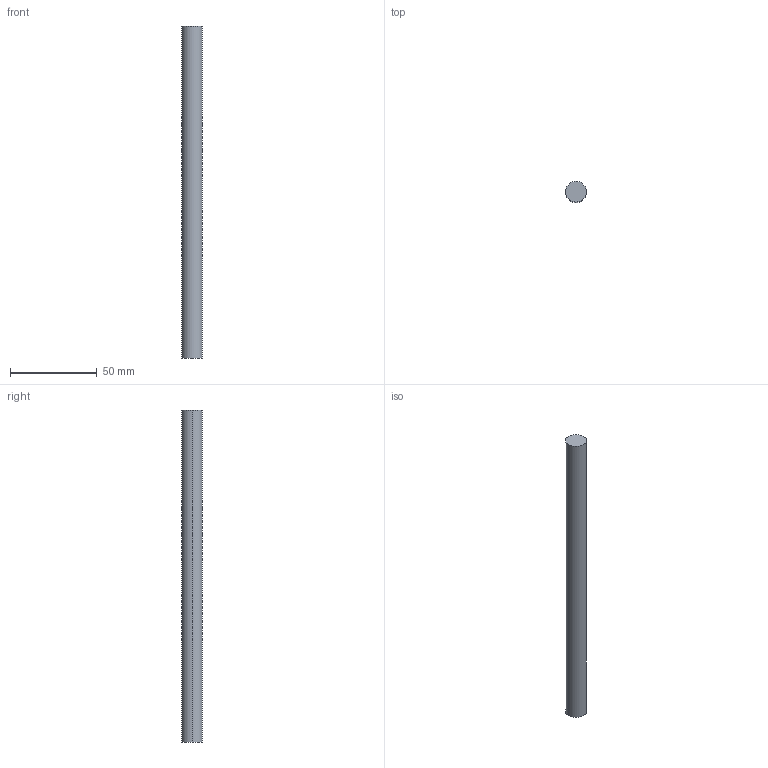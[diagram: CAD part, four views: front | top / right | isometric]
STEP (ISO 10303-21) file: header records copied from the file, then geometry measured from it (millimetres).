
FILE_DESCRIPTION (( 'STEP AP214' ), '1' );
FILE_NAME ('Magic Reling quer - S18_S19 - 300.step', '2010-09-07T14:56:10', ( 'grass' ), ( '' ), 'SwSTEP 2.0', 'SolidWorks 2010', '' );
FILE_SCHEMA (( 'AUTOMOTIVE_DESIGN' ));
Length unit declared in the file: millimetre
Products named in the file (1): Magic Reling quer - S18_S19 - 300
Bounding box: 12 x 12 x 191 mm (x, y, z)
Volume: 21601.6 mm3; surface area: 7426.7 mm2
Topology: 1 solids, 1 shells, 4 faces, 6 edges, 4 vertices
Faces by surface type: cylinder 2, plane 2
Entity records: 128 total; most frequent: DIRECTION 20, CARTESIAN_POINT 15, ORIENTED_EDGE 12, AXIS2_PLACEMENT_3D 9, EDGE_CURVE 6, ADVANCED_FACE 4, VERTEX_POINT 4, EDGE_LOOP 4
